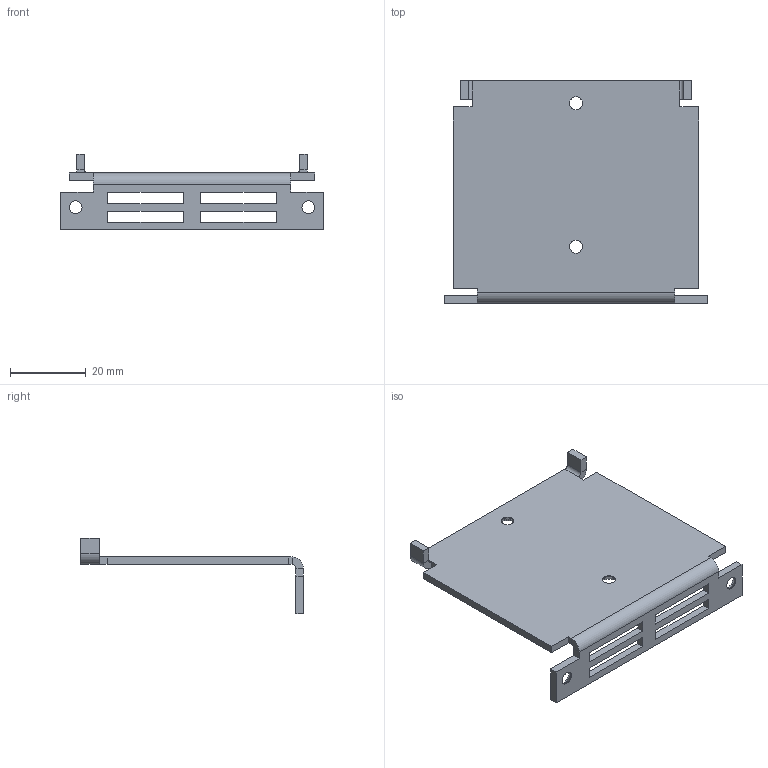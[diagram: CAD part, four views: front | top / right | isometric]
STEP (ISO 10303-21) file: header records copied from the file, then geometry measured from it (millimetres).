
FILE_DESCRIPTION(/* description */ ('','CAx-IF Rec.Pracs.---Representation and Presentation of Product Manufacturing Information (PMI)---4.0---2014-10-13'),/* implementation_level */ '2;1');
FILE_NAME(/* name */ 'G:\Alle CAD Daten\CAMTEC_2021_Pack and Go\PSU CPS-i3000 - CPS-i2000\2051037002.stp',/* time_stamp */ '2020-09-15T19:13:18+02:00',/* author */ ('rryba'),/* organization */ (''),/* preprocessor_version */ 'ST-DEVELOPER v18.1',/* originating_system */ 'Autodesk Inventor 2021',/* authorisation */ '');
FILE_SCHEMA (('AP242_MANAGED_MODEL_BASED_3D_ENGINEERING_MIM_LF { 1 0 10303 442 1 1 4 }'));
Length unit declared in the file: millimetre
Products named in the file (1): 2051037002
Bounding box: 69.6 x 59 x 20.1 mm (x, y, z)
Volume: 8565.7 mm3; surface area: 9761.5 mm2
Topology: 1 solids, 1 shells, 72 faces, 231 edges, 210 vertices
Faces by surface type: plane 54, cylinder 14, cone 4
Full cylindrical faces by diameter (mm): 3.4 x4, 5.9 x4
Entity records: 2405 total; most frequent: CARTESIAN_POINT 461, DIRECTION 360, ORIENTED_EDGE 356, EDGE_CURVE 178, LINE 150, VECTOR 150, VERTEX_POINT 108, AXIS2_PLACEMENT_3D 105
